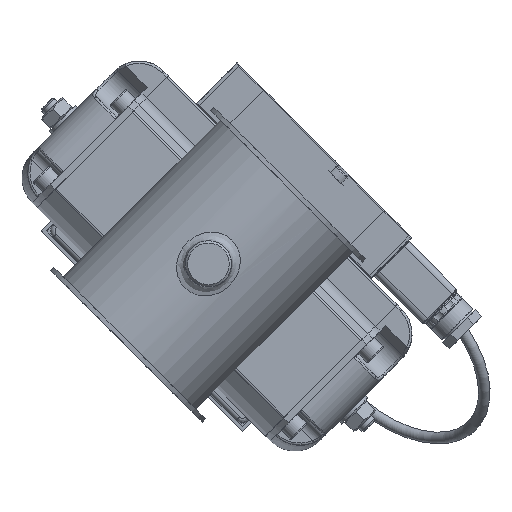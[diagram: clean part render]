
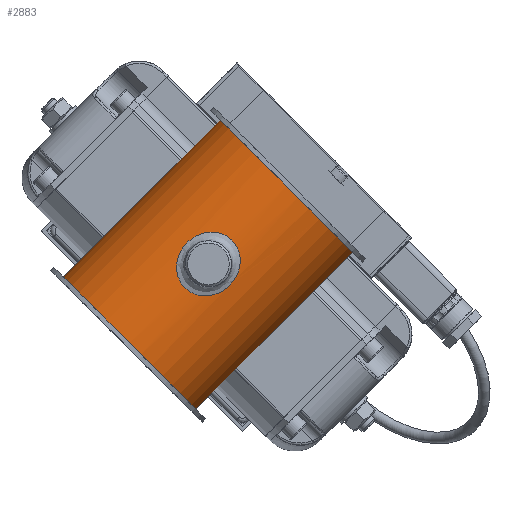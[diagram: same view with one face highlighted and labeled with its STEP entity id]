
A CAD part, top view. The second image highlights one B-rep face of the part: STEP entity #2883.
In plain terms, the highlighted cylindrical face has radius 40.5 mm (diameter 81 mm), a full revolution.
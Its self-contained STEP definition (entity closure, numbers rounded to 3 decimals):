
#2774=CARTESIAN_POINT('',(38.34,13.05,50.293));
#2775=VERTEX_POINT('',#2774);
#2785=CARTESIAN_POINT('',(38.338,13.052,50.293));
#2786=CARTESIAN_POINT('',(38.338,13.052,52.465));
#2787=CARTESIAN_POINT('',(38.664,12.146,56.821));
#2788=CARTESIAN_POINT('',(39.707,8.439,61.984));
#2789=CARTESIAN_POINT('',(40.531,3.049,64.91));
#2790=CARTESIAN_POINT('',(40.535,-3.017,64.916));
#2791=CARTESIAN_POINT('',(39.71,-8.418,62.005));
#2792=CARTESIAN_POINT('',(38.785,-11.722,57.413));
#2793=CARTESIAN_POINT('',(38.325,-13.096,52.521));
#2794=CARTESIAN_POINT('',(38.322,-13.101,48.088));
#2795=CARTESIAN_POINT('',(38.852,-11.536,42.479));
#2796=CARTESIAN_POINT('',(39.848,-7.878,38.105));
#2797=CARTESIAN_POINT('',(40.532,-2.361,35.675));
#2798=CARTESIAN_POINT('',(40.532,3.029,35.672));
#2799=CARTESIAN_POINT('',(39.71,8.422,38.591));
#2800=CARTESIAN_POINT('',(38.666,12.14,43.744));
#2801=CARTESIAN_POINT('',(38.338,13.052,48.121));
#2802=CARTESIAN_POINT('',(38.338,13.052,50.293));
#2803=CARTESIAN_POINT('',(38.338,13.052,50.293));
#2804=CARTESIAN_POINT('',(38.338,13.052,50.293));
#2805=CARTESIAN_POINT('',(38.338,13.052,50.293));
#2806=B_SPLINE_CURVE_WITH_KNOTS('',3,(#2785,#2786,#2787,#2788,#2789,#2790,#2791,#2792,#2793,#2794,#2795,#2796,#2797,#2798,#2799,#2800,#2801,#2802,#2803,#2804,#2805),.UNSPECIFIED.,.T.,.U.,(4,1,1,1,1,1,1,1,1,1,1,1,1,1,1,3,4),(-6.054,-5.622,-5.189,-4.757,-4.324,-3.892,-3.459,-3.171,-2.883,-2.595,-2.018,-1.73,-1.297,-0.865,-0.432,0.0,0.),.UNSPECIFIED.);
#2807=EDGE_CURVE('',#2775,#2775,#2806,.T.);
#2812=CARTESIAN_POINT('',(0.0,0.0,0.0));
#2813=DIRECTION('',(0.0,0.0,1.0));
#2814=DIRECTION('',(-1.0,0.0,0.0));
#2815=AXIS2_PLACEMENT_3D('',#2812,#2813,#2814);
#2816=CYLINDRICAL_SURFACE('',#2815,40.5);
#2817=CARTESIAN_POINT('',(40.5,0.,98.0));
#2818=VERTEX_POINT('',#2817);
#2819=CARTESIAN_POINT('',(0.0,0.0,98.0));
#2820=DIRECTION('',(0.0,0.0,-1.0));
#2821=DIRECTION('',(-1.0,0.0,0.0));
#2822=AXIS2_PLACEMENT_3D('',#2819,#2820,#2821);
#2823=CIRCLE('',#2822,40.5);
#2824=EDGE_CURVE('',#2818,#2818,#2823,.T.);
#2825=ORIENTED_EDGE('',*,*,#2824,.T.);
#2826=EDGE_LOOP('',(#2825));
#2827=FACE_OUTER_BOUND('',#2826,.T.);
#2828=CARTESIAN_POINT('',(-40.5,0.,2.0));
#2829=VERTEX_POINT('',#2828);
#2830=CARTESIAN_POINT('',(0.0,0.0,2.0));
#2831=DIRECTION('',(0.0,0.0,1.0));
#2832=DIRECTION('',(-1.0,0.0,0.0));
#2833=AXIS2_PLACEMENT_3D('',#2830,#2831,#2832);
#2834=CIRCLE('',#2833,40.5);
#2835=EDGE_CURVE('',#2829,#2829,#2834,.T.);
#2836=ORIENTED_EDGE('',*,*,#2835,.T.);
#2837=EDGE_LOOP('',(#2836));
#2838=FACE_BOUND('',#2837,.T.);
#2839=CARTESIAN_POINT('',(-39.246,10.0,50.293));
#2840=VERTEX_POINT('',#2839);
#2841=CARTESIAN_POINT('',(-39.246,10.0,50.293));
#2842=CARTESIAN_POINT('',(-39.246,10.0,51.554));
#2843=CARTESIAN_POINT('',(-39.313,9.747,52.896));
#2844=CARTESIAN_POINT('',(-39.553,8.725,55.358));
#2845=CARTESIAN_POINT('',(-39.721,7.956,56.479));
#2846=CARTESIAN_POINT('',(-40.035,6.186,58.249));
#2847=CARTESIAN_POINT('',(-40.201,5.065,59.018));
#2848=CARTESIAN_POINT('',(-40.435,2.603,60.04));
#2849=CARTESIAN_POINT('',(-40.5,1.261,60.293));
#2850=CARTESIAN_POINT('',(-40.5,-1.261,60.293));
#2851=CARTESIAN_POINT('',(-40.435,-2.603,60.04));
#2852=CARTESIAN_POINT('',(-40.201,-5.065,59.018));
#2853=CARTESIAN_POINT('',(-40.035,-6.186,58.249));
#2854=CARTESIAN_POINT('',(-39.721,-7.956,56.479));
#2855=CARTESIAN_POINT('',(-39.553,-8.725,55.358));
#2856=CARTESIAN_POINT('',(-39.313,-9.747,52.896));
#2857=CARTESIAN_POINT('',(-39.246,-10.0,51.554));
#2858=CARTESIAN_POINT('',(-39.246,-10.0,49.032));
#2859=CARTESIAN_POINT('',(-39.313,-9.747,47.69));
#2860=CARTESIAN_POINT('',(-39.553,-8.725,45.228));
#2861=CARTESIAN_POINT('',(-39.721,-7.956,44.107));
#2862=CARTESIAN_POINT('',(-40.035,-6.186,42.337));
#2863=CARTESIAN_POINT('',(-40.201,-5.065,41.568));
#2864=CARTESIAN_POINT('',(-40.435,-2.603,40.546));
#2865=CARTESIAN_POINT('',(-40.5,-1.261,40.293));
#2866=CARTESIAN_POINT('',(-40.5,1.261,40.293));
#2867=CARTESIAN_POINT('',(-40.435,2.603,40.546));
#2868=CARTESIAN_POINT('',(-40.201,5.065,41.568));
#2869=CARTESIAN_POINT('',(-40.035,6.186,42.337));
#2870=CARTESIAN_POINT('',(-39.721,7.956,44.107));
#2871=CARTESIAN_POINT('',(-39.553,8.725,45.228));
#2872=CARTESIAN_POINT('',(-39.313,9.747,47.69));
#2873=CARTESIAN_POINT('',(-39.246,10.0,49.032));
#2874=CARTESIAN_POINT('',(-39.246,10.0,50.293));
#2875=B_SPLINE_CURVE_WITH_KNOTS('',3,(#2841,#2842,#2843,#2844,#2845,#2846,#2847,#2848,#2849,#2850,#2851,#2852,#2853,#2854,#2855,#2856,#2857,#2858,#2859,#2860,#2861,#2862,#2863,#2864,#2865,#2866,#2867,#2868,#2869,#2870,#2871,#2872,#2873,#2874),.UNSPECIFIED.,.T.,.U.,(4,2,2,2,2,2,2,2,2,2,2,2,2,2,2,2,4),(0.0,0.378,0.757,1.135,1.514,1.892,2.27,2.649,3.027,3.405,3.784,4.162,4.541,4.919,5.297,5.676,6.054),.UNSPECIFIED.);
#2876=EDGE_CURVE('',#2840,#2840,#2875,.T.);
#2877=ORIENTED_EDGE('',*,*,#2876,.T.);
#2878=EDGE_LOOP('',(#2877));
#2879=FACE_BOUND('',#2878,.T.);
#2880=ORIENTED_EDGE('',*,*,#2807,.F.);
#2881=EDGE_LOOP('',(#2880));
#2882=FACE_BOUND('',#2881,.T.);
#2883=ADVANCED_FACE('',(#2827,#2838,#2879,#2882),#2816,.T.);
